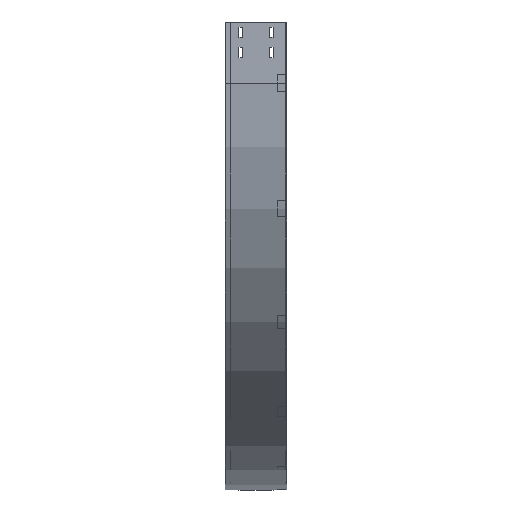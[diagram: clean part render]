
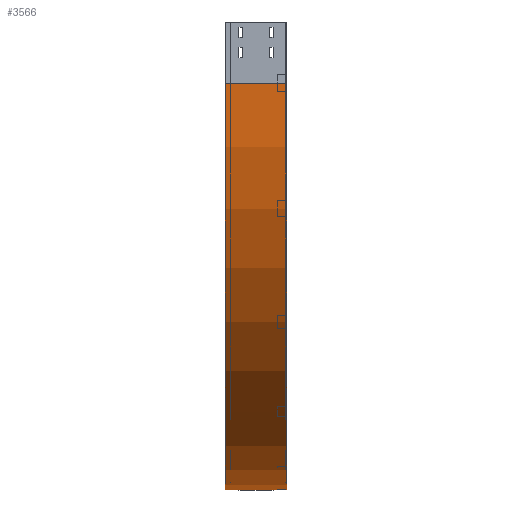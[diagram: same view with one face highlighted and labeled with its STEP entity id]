
A CAD part, left-side view. The second image highlights one B-rep face of the part: STEP entity #3566.
In plain terms, the highlighted cylindrical face has radius 1000 mm (diameter 2000 mm), a partial arc.
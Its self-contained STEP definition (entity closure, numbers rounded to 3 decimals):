
#20 = DIRECTION ( 'NONE',  ( 0., -1., 0. ) ) ;
#36 = DIRECTION ( 'NONE',  ( -1., 0., 0. ) ) ;
#402 = EDGE_CURVE ( 'NONE', #842, #2451, #2509, .T. ) ;
#674 = AXIS2_PLACEMENT_3D ( 'NONE', #3521, #1058, #2085 ) ;
#842 = VERTEX_POINT ( 'NONE', #1796 ) ;
#846 = CARTESIAN_POINT ( 'NONE',  ( 0., 0., -150. ) ) ;
#990 = DIRECTION ( 'NONE',  ( -1., 0., 0. ) ) ;
#1058 = DIRECTION ( 'NONE',  ( 0., -1., 0. ) ) ;
#1103 = LINE ( 'NONE', #846, #3334 ) ;
#1104 = LINE ( 'NONE', #1955, #2055 ) ;
#1164 = CARTESIAN_POINT ( 'NONE',  ( 0., 0., -150. ) ) ;
#1175 = EDGE_CURVE ( 'NONE', #1950, #2724, #2848, .T. ) ;
#1681 = EDGE_LOOP ( 'NONE', ( #1874, #3038, #2098, #3603 ) ) ;
#1796 = CARTESIAN_POINT ( 'NONE',  ( 0., 150., -150. ) ) ;
#1874 = ORIENTED_EDGE ( 'NONE', *, *, #1175, .F. ) ;
#1950 = VERTEX_POINT ( 'NONE', #1164 ) ;
#1955 = CARTESIAN_POINT ( 'NONE',  ( 1000., 0., -1150. ) ) ;
#2055 = VECTOR ( 'NONE', #2573, 1000. ) ;
#2079 = DIRECTION ( 'NONE',  ( 0., -1., 0. ) ) ;
#2085 = DIRECTION ( 'NONE',  ( 0., 0., -1. ) ) ;
#2098 = ORIENTED_EDGE ( 'NONE', *, *, #402, .T. ) ;
#2451 = VERTEX_POINT ( 'NONE', #3050 ) ;
#2458 = DIRECTION ( 'NONE',  ( 0., -1., 0. ) ) ;
#2473 = AXIS2_PLACEMENT_3D ( 'NONE', #2735, #20, #36 ) ;
#2509 = CIRCLE ( 'NONE', #3379, 1000. ) ;
#2573 = DIRECTION ( 'NONE',  ( 0., -1., 0. ) ) ;
#2634 = EDGE_CURVE ( 'NONE', #842, #1950, #1103, .T. ) ;
#2678 = CYLINDRICAL_SURFACE ( 'NONE', #674, 1000. ) ;
#2724 = VERTEX_POINT ( 'NONE', #3254 ) ;
#2735 = CARTESIAN_POINT ( 'NONE',  ( 1000., 0., -150. ) ) ;
#2848 = CIRCLE ( 'NONE', #2473, 1000. ) ;
#2961 = FACE_OUTER_BOUND ( 'NONE', #1681, .T. ) ;
#3038 = ORIENTED_EDGE ( 'NONE', *, *, #2634, .F. ) ;
#3050 = CARTESIAN_POINT ( 'NONE',  ( 1000., 150., -1150. ) ) ;
#3254 = CARTESIAN_POINT ( 'NONE',  ( 1000., 0., -1150. ) ) ;
#3334 = VECTOR ( 'NONE', #2079, 1000. ) ;
#3379 = AXIS2_PLACEMENT_3D ( 'NONE', #3679, #2458, #990 ) ;
#3521 = CARTESIAN_POINT ( 'NONE',  ( 1000., 0., -150. ) ) ;
#3566 = ADVANCED_FACE ( 'NONE', ( #2961 ), #2678, .T. ) ;
#3603 = ORIENTED_EDGE ( 'NONE', *, *, #3817, .T. ) ;
#3679 = CARTESIAN_POINT ( 'NONE',  ( 1000., 150., -150. ) ) ;
#3817 = EDGE_CURVE ( 'NONE', #2451, #2724, #1104, .T. ) ;
